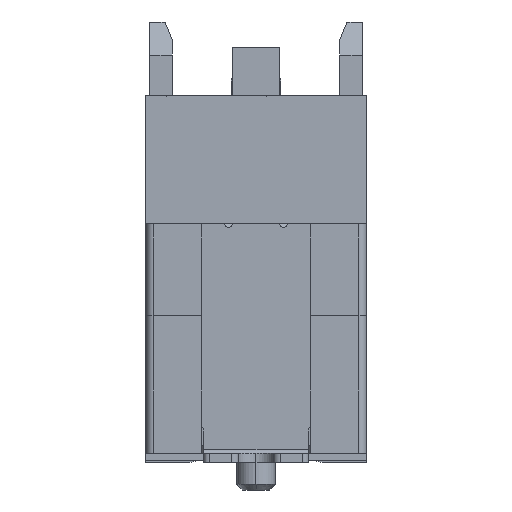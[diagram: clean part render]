
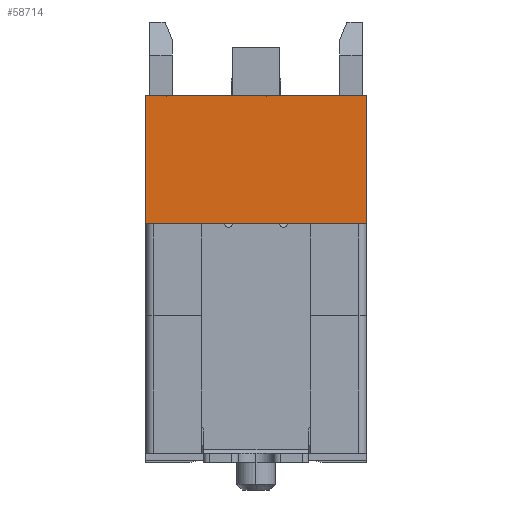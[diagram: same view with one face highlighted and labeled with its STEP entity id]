
A CAD part, left-side view. The second image highlights one B-rep face of the part: STEP entity #58714.
In plain terms, the highlighted planar face has unit normal (-1, 0, 0).
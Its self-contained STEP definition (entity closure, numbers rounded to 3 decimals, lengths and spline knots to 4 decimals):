
#58675=CARTESIAN_POINT('Axis2P3D Location',(-22.4,-3.,6.45)) ;
#58680=CARTESIAN_POINT('Line Origine',(-22.4,0.,6.45)) ;
#58684=CARTESIAN_POINT('Vertex',(-22.4,-3.,6.45)) ;
#58686=CARTESIAN_POINT('Vertex',(-22.4,3.,6.45)) ;
#58689=CARTESIAN_POINT('Line Origine',(-22.4,-3.,8.2)) ;
#58693=CARTESIAN_POINT('Vertex',(-22.4,-3.,9.95)) ;
#58696=CARTESIAN_POINT('Line Origine',(-22.4,0.,9.95)) ;
#58700=CARTESIAN_POINT('Vertex',(-22.4,3.,9.95)) ;
#58703=CARTESIAN_POINT('Line Origine',(-22.4,3.,8.2)) ;
#58676=DIRECTION('Axis2P3D Direction',(-1.,0.,0.)) ;
#58677=DIRECTION('Axis2P3D XDirection',(0.,0.,1.)) ;
#58681=DIRECTION('Vector Direction',(0.,1.,0.)) ;
#58690=DIRECTION('Vector Direction',(0.,0.,1.)) ;
#58697=DIRECTION('Vector Direction',(0.,1.,0.)) ;
#58704=DIRECTION('Vector Direction',(0.,0.,1.)) ;
#58678=AXIS2_PLACEMENT_3D('Plane Axis2P3D',#58675,#58676,#58677) ;
#58709=ORIENTED_EDGE('',*,*,#58688,.F.) ;
#58710=ORIENTED_EDGE('',*,*,#58695,.T.) ;
#58711=ORIENTED_EDGE('',*,*,#58702,.T.) ;
#58712=ORIENTED_EDGE('',*,*,#58707,.F.) ;
#58682=VECTOR('Line Direction',#58681,1.) ;
#58691=VECTOR('Line Direction',#58690,1.) ;
#58698=VECTOR('Line Direction',#58697,1.) ;
#58705=VECTOR('Line Direction',#58704,1.) ;
#58714=ADVANCED_FACE('\X2\585180F6\X0\2',(#58713),#58679,.T.) ;
#58688=EDGE_CURVE('',#58685,#58687,#58683,.T.) ;
#58695=EDGE_CURVE('',#58685,#58694,#58692,.T.) ;
#58702=EDGE_CURVE('',#58694,#58701,#58699,.T.) ;
#58707=EDGE_CURVE('',#58687,#58701,#58706,.T.) ;
#58708=EDGE_LOOP('',(#58709,#58710,#58711,#58712)) ;
#58713=FACE_OUTER_BOUND('',#58708,.T.) ;
#58683=LINE('Line',#58680,#58682) ;
#58692=LINE('Line',#58689,#58691) ;
#58699=LINE('Line',#58696,#58698) ;
#58706=LINE('Line',#58703,#58705) ;
#58679=PLANE('Plane',#58678) ;
#58685=VERTEX_POINT('',#58684) ;
#58687=VERTEX_POINT('',#58686) ;
#58694=VERTEX_POINT('',#58693) ;
#58701=VERTEX_POINT('',#58700) ;
